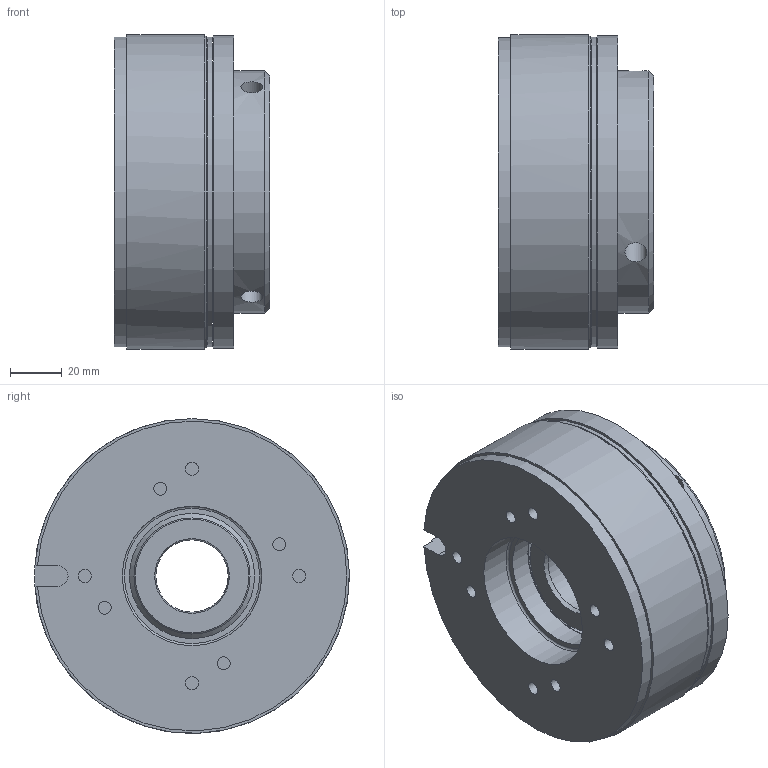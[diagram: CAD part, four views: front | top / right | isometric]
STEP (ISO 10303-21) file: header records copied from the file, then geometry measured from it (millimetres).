
FILE_DESCRIPTION (( 'STEP AP214' ), '1' );
FILE_NAME ('86 61111K00-0003_Index b.STEP', '2019-11-26T13:10:44', ( '' ), ( '' ), 'SwSTEP 2.0', 'SolidWorks 2018', '' );
FILE_SCHEMA (( 'AUTOMOTIVE_DESIGN' ));
Length unit declared in the file: millimetre
Products named in the file (1): 86 61111K00-0003_Index b
Bounding box: 60.4 x 122 x 122 mm (x, y, z)
Volume: 543872.4 mm3; surface area: 78139.9 mm2
Topology: 2 solids, 2 shells, 65 faces, 117 edges, 74 vertices
Faces by surface type: cylinder 29, plane 26, cone 7, torus 3
Full cylindrical faces by diameter (mm): 5 x8, 6.8 x3, 8.5 x3, 28 x1, 42 x1, 45 x1, 48.5 x1, 54 x1, 57 x1, 58 x1, 60 x1, 94 x2, 120 x1, 121 x1, 122 x1
Entity records: 1958 total; most frequent: CARTESIAN_POINT 602, DIRECTION 266, ORIENTED_EDGE 158, EDGE_LOOP 130, AXIS2_PLACEMENT_3D 127, FACE_OUTER_BOUND 95, EDGE_CURVE 79, VERTEX_POINT 73
